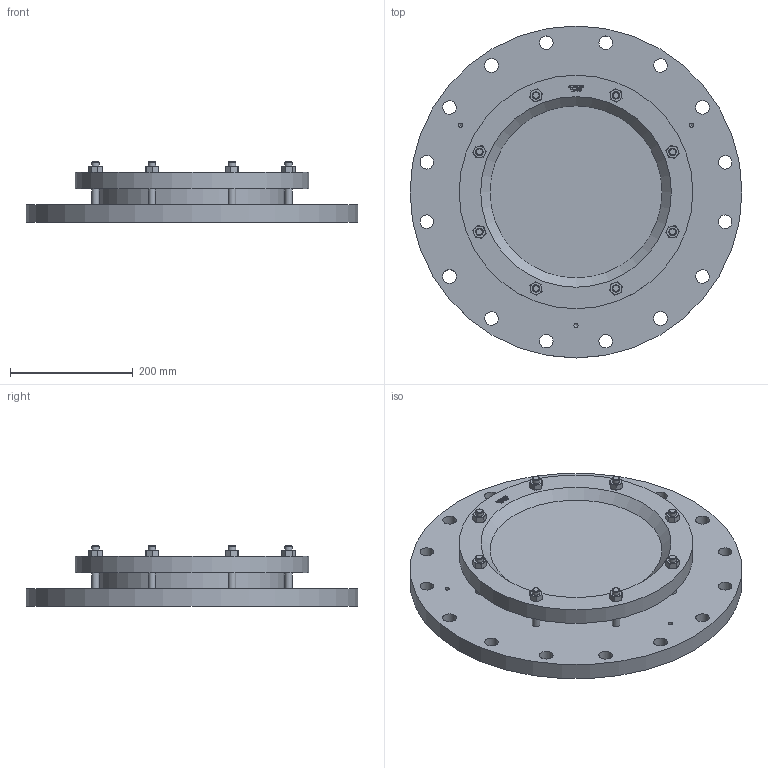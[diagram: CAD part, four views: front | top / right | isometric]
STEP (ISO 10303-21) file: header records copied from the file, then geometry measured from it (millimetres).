
FILE_DESCRIPTION(/* description */ (''),/* implementation_level */ '2;1');
FILE_NAME(/* name */ 'W:\Konstruktion_ACI\325\_STEP\325-400-6.stp',/* time_stamp */ '2022-03-02T17:07:50+01:00',/* author */ ('koslowksi'),/* organization */ (''),/* preprocessor_version */ 'ST-DEVELOPER v16.1',/* originating_system */ 'Autodesk Inventor 2016',/* authorisation */ '');
FILE_SCHEMA (('AUTOMOTIVE_DESIGN { 1 0 10303 214 3 1 1 }'));
Length unit declared in the file: millimetre
Products named in the file (1): 325-400-6
Bounding box: 540 x 540 x 98 mm (x, y, z)
Volume: 10218115.2 mm3; surface area: 683430 mm2
Topology: 1 solids, 1 shells, 453 faces, 1156 edges, 743 vertices
Faces by surface type: plane 199, cone 108, bspline 108, cylinder 38
Full cylindrical faces by diameter (mm): 6.647 x3, 12 x16, 22 x16, 304 x1, 380 x1, 540 x1
Entity records: 14010 total; most frequent: CARTESIAN_POINT 4037, ORIENTED_EDGE 2158, DIRECTION 1545, EDGE_CURVE 1079, VERTEX_POINT 716, EDGE_LOOP 589, AXIS2_PLACEMENT_3D 528, LINE 489
